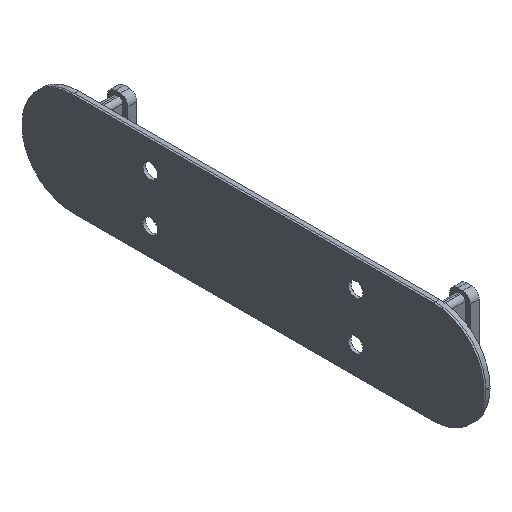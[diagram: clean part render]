
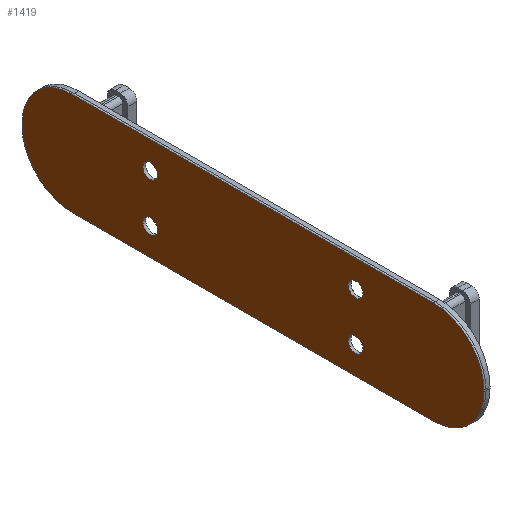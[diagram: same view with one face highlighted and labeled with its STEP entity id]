
A CAD part, isometric view. The second image highlights one B-rep face of the part: STEP entity #1419.
In plain terms, the highlighted planar face has unit normal (-1, 0, 0).
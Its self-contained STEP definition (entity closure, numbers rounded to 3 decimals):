
#19=FACE_BOUND('',#247,.T.);
#20=FACE_BOUND('',#248,.T.);
#21=FACE_BOUND('',#249,.T.);
#22=FACE_BOUND('',#250,.T.);
#82=CIRCLE('',#1527,5.883);
#83=CIRCLE('',#1528,5.883);
#84=CIRCLE('',#1529,5.883);
#85=CIRCLE('',#1530,5.883);
#86=CIRCLE('',#1531,0.85);
#87=CIRCLE('',#1532,0.85);
#88=CIRCLE('',#1533,0.85);
#89=CIRCLE('',#1534,0.85);
#161=FACE_OUTER_BOUND('',#246,.T.);
#246=EDGE_LOOP('',(#995,#996,#997,#998,#999,#1000,#1001,#1002));
#247=EDGE_LOOP('',(#1003));
#248=EDGE_LOOP('',(#1004));
#249=EDGE_LOOP('',(#1005));
#250=EDGE_LOOP('',(#1006));
#362=LINE('',#2188,#494);
#364=LINE('',#2198,#496);
#365=LINE('',#2202,#497);
#366=LINE('',#2206,#498);
#494=VECTOR('',#1727,1.);
#496=VECTOR('',#1737,1.);
#497=VECTOR('',#1740,1.);
#498=VECTOR('',#1743,1.);
#624=VERTEX_POINT('',#2186);
#625=VERTEX_POINT('',#2187);
#628=VERTEX_POINT('',#2195);
#629=VERTEX_POINT('',#2197);
#630=VERTEX_POINT('',#2199);
#631=VERTEX_POINT('',#2201);
#632=VERTEX_POINT('',#2203);
#633=VERTEX_POINT('',#2205);
#634=VERTEX_POINT('',#2208);
#635=VERTEX_POINT('',#2210);
#636=VERTEX_POINT('',#2212);
#637=VERTEX_POINT('',#2214);
#768=EDGE_CURVE('',#624,#625,#362,.T.);
#772=EDGE_CURVE('',#625,#628,#82,.T.);
#773=EDGE_CURVE('',#628,#629,#364,.T.);
#774=EDGE_CURVE('',#629,#630,#83,.T.);
#775=EDGE_CURVE('',#630,#631,#365,.T.);
#776=EDGE_CURVE('',#631,#632,#84,.T.);
#777=EDGE_CURVE('',#632,#633,#366,.T.);
#778=EDGE_CURVE('',#633,#624,#85,.T.);
#779=EDGE_CURVE('',#634,#634,#86,.T.);
#780=EDGE_CURVE('',#635,#635,#87,.T.);
#781=EDGE_CURVE('',#636,#636,#88,.T.);
#782=EDGE_CURVE('',#637,#637,#89,.T.);
#995=ORIENTED_EDGE('',*,*,#768,.T.);
#996=ORIENTED_EDGE('',*,*,#772,.T.);
#997=ORIENTED_EDGE('',*,*,#773,.T.);
#998=ORIENTED_EDGE('',*,*,#774,.T.);
#999=ORIENTED_EDGE('',*,*,#775,.T.);
#1000=ORIENTED_EDGE('',*,*,#776,.T.);
#1001=ORIENTED_EDGE('',*,*,#777,.T.);
#1002=ORIENTED_EDGE('',*,*,#778,.T.);
#1003=ORIENTED_EDGE('',*,*,#779,.T.);
#1004=ORIENTED_EDGE('',*,*,#780,.T.);
#1005=ORIENTED_EDGE('',*,*,#781,.T.);
#1006=ORIENTED_EDGE('',*,*,#782,.T.);
#1371=PLANE('',#1526);
#1419=ADVANCED_FACE('',(#161,#19,#20,#21,#22),#1371,.F.);
#1526=AXIS2_PLACEMENT_3D('',#2194,#1733,#1734);
#1527=AXIS2_PLACEMENT_3D('',#2196,#1735,#1736);
#1528=AXIS2_PLACEMENT_3D('',#2200,#1738,#1739);
#1529=AXIS2_PLACEMENT_3D('',#2204,#1741,#1742);
#1530=AXIS2_PLACEMENT_3D('',#2207,#1744,#1745);
#1531=AXIS2_PLACEMENT_3D('',#2209,#1746,#1747);
#1532=AXIS2_PLACEMENT_3D('',#2211,#1748,#1749);
#1533=AXIS2_PLACEMENT_3D('',#2213,#1750,#1751);
#1534=AXIS2_PLACEMENT_3D('',#2215,#1752,#1753);
#1727=DIRECTION('',(0.,0.,1.));
#1733=DIRECTION('center_axis',(1.,0.,0.));
#1734=DIRECTION('ref_axis',(0.,0.,1.));
#1735=DIRECTION('center_axis',(-1.,0.,0.));
#1736=DIRECTION('ref_axis',(0.,0.,1.));
#1737=DIRECTION('',(0.,1.,0.));
#1738=DIRECTION('center_axis',(-1.,0.,0.));
#1739=DIRECTION('ref_axis',(0.,0.,1.));
#1740=DIRECTION('',(0.,0.,-1.));
#1741=DIRECTION('center_axis',(-1.,0.,0.));
#1742=DIRECTION('ref_axis',(0.,0.,1.));
#1743=DIRECTION('',(0.,-1.,0.));
#1744=DIRECTION('center_axis',(-1.,0.,0.));
#1745=DIRECTION('ref_axis',(0.,0.,1.));
#1746=DIRECTION('center_axis',(1.,0.,0.));
#1747=DIRECTION('ref_axis',(0.,1.,0.));
#1748=DIRECTION('center_axis',(1.,0.,0.));
#1749=DIRECTION('ref_axis',(0.,1.,0.));
#1750=DIRECTION('center_axis',(1.,0.,0.));
#1751=DIRECTION('ref_axis',(0.,1.,0.));
#1752=DIRECTION('center_axis',(1.,0.,0.));
#1753=DIRECTION('ref_axis',(0.,1.,0.));
#2186=CARTESIAN_POINT('',(-40.,-14.983,-12.1));
#2187=CARTESIAN_POINT('',(-40.,-14.983,-11.9));
#2188=CARTESIAN_POINT('',(-40.,-14.983,-11.95));
#2194=CARTESIAN_POINT('Origin',(-40.,-80.,-30.));
#2195=CARTESIAN_POINT('',(-40.,-9.1,-6.017));
#2196=CARTESIAN_POINT('Origin',(-40.,-9.1,-11.9));
#2197=CARTESIAN_POINT('',(-40.,33.1,-6.017));
#2198=CARTESIAN_POINT('',(-40.,22.55,-6.017));
#2199=CARTESIAN_POINT('',(-40.,38.983,-11.9));
#2200=CARTESIAN_POINT('Origin',(-40.,33.1,-11.9));
#2201=CARTESIAN_POINT('',(-40.,38.983,-12.1));
#2202=CARTESIAN_POINT('',(-40.,38.983,-12.05));
#2203=CARTESIAN_POINT('',(-40.,33.1,-17.983));
#2204=CARTESIAN_POINT('Origin',(-40.,33.1,-12.1));
#2205=CARTESIAN_POINT('',(-40.,-9.1,-17.983));
#2206=CARTESIAN_POINT('',(-40.,1.45,-17.983));
#2207=CARTESIAN_POINT('Origin',(-40.,-9.1,-12.1));
#2208=CARTESIAN_POINT('',(-40.,23.15,-14.8));
#2209=CARTESIAN_POINT('Origin',(-40.,24.,-14.8));
#2210=CARTESIAN_POINT('',(-40.,23.15,-9.2));
#2211=CARTESIAN_POINT('Origin',(-40.,24.,-9.2));
#2212=CARTESIAN_POINT('',(-40.,-0.85,-14.8));
#2213=CARTESIAN_POINT('Origin',(-40.,0.,-14.8));
#2214=CARTESIAN_POINT('',(-40.,-0.85,-9.2));
#2215=CARTESIAN_POINT('Origin',(-40.,0.,-9.2));
